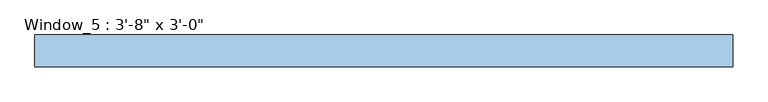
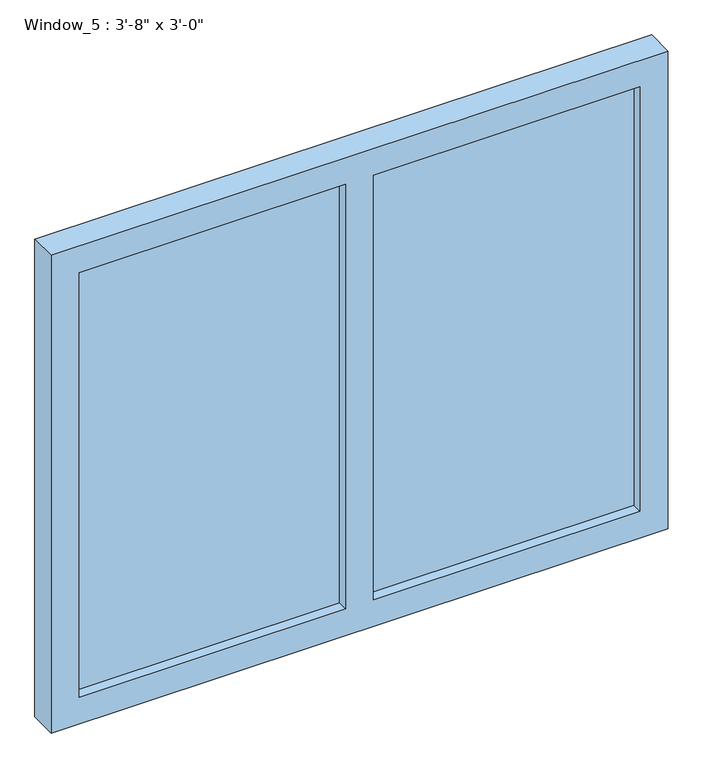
"""IFC4 building model written with IfcOpenShell, lengths in millimetres: window geometry."""

from ifc_helpers import new_model, si_unit, frame, origin, place, context, project, spatial, polyline, outline, extrude, source, transform, mapped, element, save


def window_491ab510(model_context):
    return source(origin(), model_context, "Body", "SweptSolid", [
        extrude(outline(polyline([(-12.7, 6.35), (-12.7, -6.35), (-495.3, -6.35), (-495.3, 6.35), (-12.7, 6.35)])), frame((0.0, 0.0, 889.0), z_axis=(0.0, 0.0, 1.0), x_axis=(1.0, 0.0, 0.0)), (0.0, 0.0, 1.0), 812.8),
        extrude(outline(polyline([(520.7, 6.35), (520.7, -6.35), (38.1, -6.35), (38.1, 6.35), (520.7, 6.35)])), frame((0.0, 0.0, 889.0), z_axis=(0.0, 0.0, 1.0), x_axis=(1.0, 0.0, 0.0)), (0.0, 0.0, 1.0), 812.8),
        extrude(outline(polyline([(1752.6, -546.1), (838.2, -546.1), (838.2, 571.5), (1752.6, 571.5), (1752.6, -546.1)]), holes=[polyline([(889.0, -495.3), (1701.8, -495.3), (1701.8, -12.7), (889.0, -12.7), (889.0, -495.3)]), polyline([(1701.8, 38.1), (1701.8, 520.7), (889.0, 520.7), (889.0, 38.1), (1701.8, 38.1)])]), frame((0.0, -25.4, 0.0), z_axis=(0.0, 1.0, 0.0), x_axis=(0.0, 0.0, 1.0)), (0.0, 0.0, 1.0), 50.8),
    ])


if __name__ == "__main__":
    model = new_model("IFC4")
    model_context = context("Model", 3, world=origin())
    ifc_project = project(units=[si_unit("LENGTHUNIT", "METRE", prefix="MILLI")], contexts=[model_context])
    site = spatial("IfcSite", under=ifc_project)
    building = spatial("IfcBuilding", under=site)
    placement = place(None, origin())
    window_shape = window_491ab510(model_context)
    element("IfcWindow", 1, ObjectType="Window_5 : 3'-8\" x 3'-0\"", at=placement, inside=building, context=model_context, shape_type="MappedRepresentation", body=[
        mapped(window_shape, transform((0.0, 0.0, 0.0), x_axis=(1.0, 0.0, 0.0), y_axis=(0.0, 1.0, 0.0), z_axis=(0.0, 0.0, 1.0))),
    ])
    save(model, "model.ifc")
